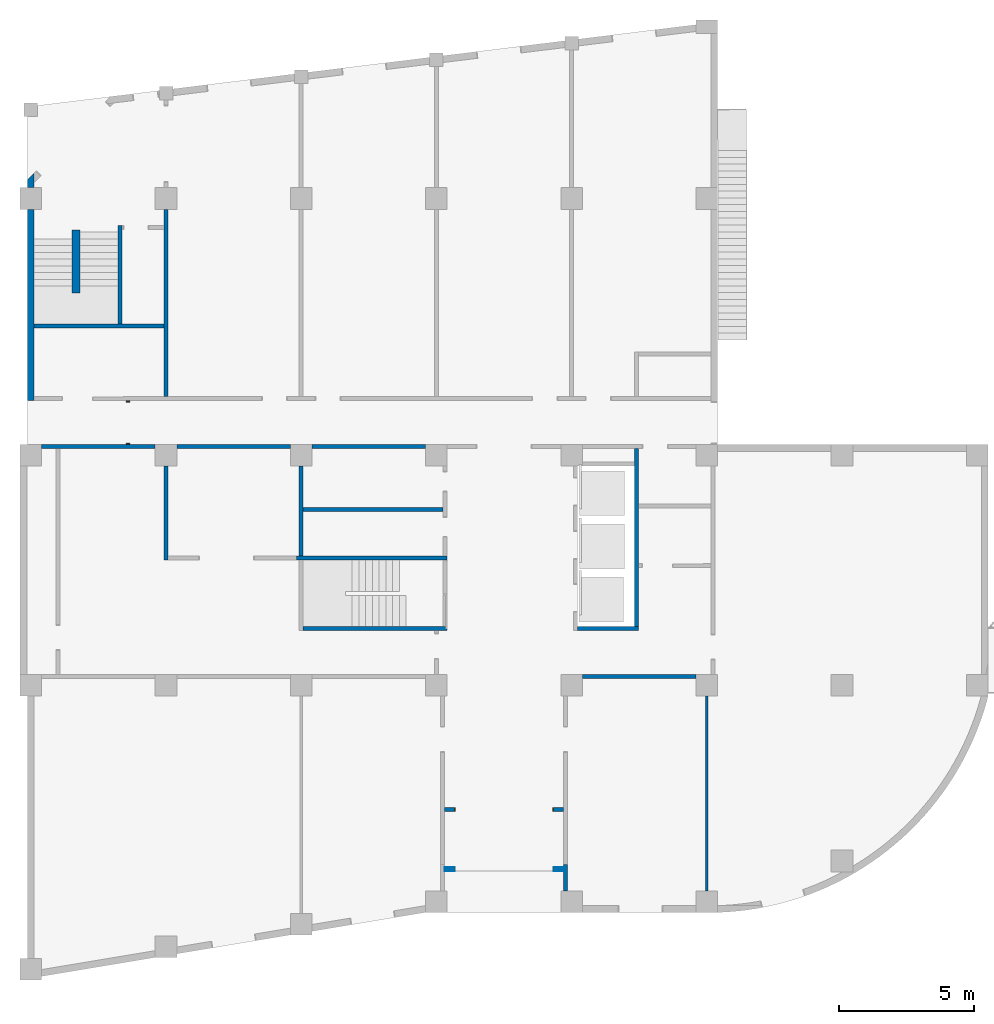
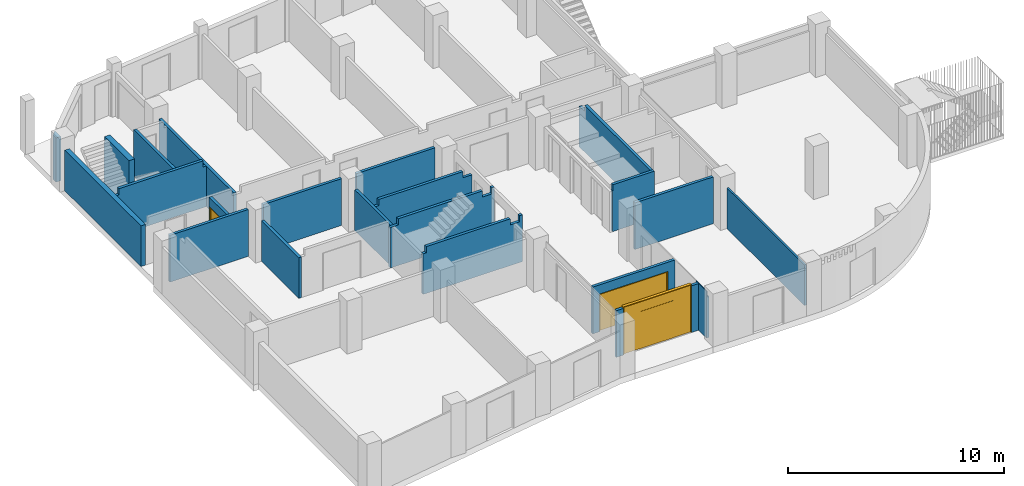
# One storey, part 6 of 9: 21 walls, 3 doors, 3 openings.
"""IFC2X3 building model written with IfcOpenShell, lengths in millimetres."""

from ifc_helpers import new_model, entity, si_unit, converted_unit, derived_unit, money_unit, direction, frame, origin_with_axes, place, context, subcontext, project, spatial, open_shell, faceted_brep, surface_model, material, type_object, element, fill, save


model = new_model("IFC2X3")

# Units and contexts
model_context = context("Model", 3, precision=0.01, world=origin_with_axes(), true_north=direction((0.0, 1.0)))
body_context = subcontext(model_context, "Body", "Model", "MODEL_VIEW")
ifc_project = project(units=[si_unit("LENGTHUNIT", "METRE", prefix="MILLI"), si_unit("AREAUNIT", "SQUARE_METRE"), si_unit("VOLUMEUNIT", "CUBIC_METRE"), converted_unit("PLANEANGLEUNIT", "DEGREE", entity("IfcPlaneAngleMeasure", 0.0174532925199), si_unit("PLANEANGLEUNIT", "RADIAN"), dimensions=[0, 0, 0, 0, 0, 0, 0]), si_unit("SOLIDANGLEUNIT", "STERADIAN"), money_unit("JPY"), converted_unit("TIMEUNIT", "Year", entity("IfcTimeMeasure", 31556926.0), si_unit("TIMEUNIT", "SECOND"), dimensions=[0, 0, 1, 0, 0, 0, 0]), si_unit("MASSUNIT", "GRAM", prefix="KILO"), si_unit("THERMODYNAMICTEMPERATUREUNIT", "DEGREE_CELSIUS"), si_unit("LUMINOUSINTENSITYUNIT", "LUMEN"), si_unit("ENERGYUNIT", "JOULE", prefix="MEGA"), derived_unit("THERMALCONDUCTANCEUNIT", [(si_unit("POWERUNIT", "WATT"), 1), (si_unit("LENGTHUNIT", "METRE"), -1), (si_unit("THERMODYNAMICTEMPERATUREUNIT", "KELVIN"), -1)]), derived_unit("SPECIFICHEATCAPACITYUNIT", [(si_unit("ENERGYUNIT", "JOULE"), 1), (si_unit("MASSUNIT", "GRAM", prefix="KILO"), -1), (si_unit("THERMODYNAMICTEMPERATUREUNIT", "KELVIN"), -1)]), derived_unit("MASSDENSITYUNIT", [(si_unit("MASSUNIT", "GRAM", prefix="KILO"), 1), (si_unit("VOLUMEUNIT", "CUBIC_METRE"), -1)])], contexts=[model_context])

# Site, building, storey
site_placement = place(None, origin_with_axes())
site = spatial("IfcSite", under=ifc_project, at=site_placement, Name="サイト", CompositionType="ELEMENT")
building_placement = place(site_placement, origin_with_axes())
building = spatial("IfcBuilding", under=site, at=building_placement, Name="建築", CompositionType="ELEMENT")
storey_placement = place(building_placement, origin_with_axes())
storey = spatial("IfcBuildingStorey", under=building, at=storey_placement, Name="1FL", CompositionType="ELEMENT", Elevation=0.0)

# Wall, opening, door
ifc_material_1 = material(Name="コンクリート")
wall_type_1 = type_object("IfcWallType", Name="コンクリート 150", PredefinedType="NOTDEFINED")
wall_1_placement = place(storey_placement, frame((19775.0000519, -4600.0, 0.0), z_axis=(0.0, 0.0, 1.0), x_axis=(-1.0, 0.0, 0.0)))
wall_1 = element("IfcWall", 1, at=wall_1_placement, inside=storey, type_object=wall_type_1, material=ifc_material_1, Name="W6", context=body_context, shape_type="Brep", body=[
    faceted_brep([(4105.0000522, -75.0, 2130.0), (4105.0000522, -75.0, 0.0), (4475.0001044, -75.0, 0.0), (4475.0001044, -75.0, 2650.0), (75.0, -75.0, 2650.0), (75.0, -75.0, 0.0), (445.0000522, -75.0, 0.0), (445.0000522, -75.0, 2130.0), (4105.0000522, 75.0, 2130.0), (4105.0000522, 75.0, 0.0), (4475.0001044, 75.0, 0.0), (4475.0001044, 75.0, 2650.0), (75.0, 75.0, 2650.0), (75.0, 75.0, 0.0), (445.0000522, 75.0, 0.0), (445.0000522, 75.0, 2130.0)], [[[0, 1, 2, 3, 4, 5, 6, 7]], [[1, 0, 8, 9]], [[1, 9, 10, 2]], [[10, 11, 3, 2]], [[11, 12, 4, 3]], [[5, 4, 12, 13]], [[14, 6, 5, 13]], [[7, 6, 14, 15]], [[0, 7, 15, 8]], [[15, 14, 13, 12, 11, 10, 9, 8]]]),
])
opening_1_placement = place(wall_1_placement, frame((2275.0000522, 0.0, 0.0), z_axis=(0.0, 0.0, 1.0), x_axis=(1.0, 0.0, 0.0)))
opening_1 = element("IfcOpeningElement", 2, at=opening_1_placement, cuts=wall_1, Name="SD2", context=body_context, shape_type="Brep", body=[
    faceted_brep([(-1830.0, -160.0, 0.0), (-1830.0, -160.0, 2130.0), (-1830.0, 160.0, 2130.0), (-1830.0, 160.0, 0.0), (1830.0, -160.0, 0.0), (1830.0, -160.0, 2130.0), (1830.0, 160.0, 2130.0), (1830.0, 160.0, 0.0)], [[[0, 1, 2, 3]], [[0, 4, 5, 1]], [[1, 5, 6, 2]], [[3, 2, 6, 7]], [[4, 0, 3, 7]], [[5, 4, 7, 6]]]),
])
door_style_1 = type_object("IfcDoorStyle", Name="両引き分戸2", ConstructionType="NOTDEFINED", OperationType="NOTDEFINED", ParameterTakesPrecedence=False, Sizeable=False)
door_1_placement = place(opening_1_placement, frame((1800.0, 0.0, 0.0), z_axis=(0.0, 0.0, 1.0), x_axis=(-1.0, 0.0, 0.0)))
door_1 = element("IfcDoor", 3, at=door_1_placement, inside=storey, type_object=door_style_1, Name="SD2", OverallHeight=2150.0, OverallWidth=3700.0, context=body_context, shape_type="SurfaceModel", body=[
    surface_model("IfcShellBasedSurfaceModel", [(2675.0, 0.0, 0.0), (2675.0, 0.0, 2100.0), (3600.0, 0.0, 2100.0), (3600.0, 0.0, 0.0), (2725.0, 0.0, 150.0), (3550.0, 0.0, 150.0), (3550.0, 0.0, 2050.0), (2725.0, 0.0, 2050.0)], [open_shell([[[0, 1, 2, 3], [4, 5, 6, 7]]])]),
    surface_model("IfcShellBasedSurfaceModel", [(2725.0, 0.0, 150.0), (2725.0, 0.0, 2050.0), (3550.0, 0.0, 2050.0), (3550.0, 0.0, 150.0)], [open_shell([[[0, 1, 2, 3]]])]),
    surface_model("IfcShellBasedSurfaceModel", [(2725.0, -10.5, 2100.0), (2725.0, -10.5, 1950.0), (1800.0, -10.5, 1950.0), (1800.0, -10.5, 2100.0)], [open_shell([[[0, 1, 2, 3]]])]),
    surface_model("IfcShellBasedSurfaceModel", [(2725.0, -10.5, 0.0), (1800.0, -10.5, 0.0), (1800.0, -10.5, 150.0), (2725.0, -10.5, 150.0)], [open_shell([[[0, 1, 2, 3]]])]),
    surface_model("IfcShellBasedSurfaceModel", [(2725.0, -10.5, 150.0), (1800.0, -10.5, 150.0), (1800.0, -10.5, 1950.0), (2725.0, -10.5, 1950.0)], [open_shell([[[0, 1, 2, 3]]])]),
    surface_model("IfcShellBasedSurfaceModel", [(875.0, -10.5, 2100.0), (1800.0, -10.5, 2100.0), (1800.0, -10.5, 1950.0), (875.0, -10.5, 1950.0)], [open_shell([[[0, 1, 2, 3]]])]),
    surface_model("IfcShellBasedSurfaceModel", [(875.0, -10.5, 0.0), (875.0, -10.5, 150.0), (1800.0, -10.5, 150.0), (1800.0, -10.5, 0.0)], [open_shell([[[0, 1, 2, 3]]])]),
    surface_model("IfcShellBasedSurfaceModel", [(875.0, -10.5, 150.0), (875.0, -10.5, 1950.0), (1800.0, -10.5, 1950.0), (1800.0, -10.5, 150.0)], [open_shell([[[0, 1, 2, 3]]])]),
    surface_model("IfcShellBasedSurfaceModel", [(0.0, 0.0, 0.0), (0.0, 0.0, 2100.0), (925.0, 0.0, 2100.0), (925.0, 0.0, 0.0), (50.0, 0.0, 150.0), (875.0, 0.0, 150.0), (875.0, 0.0, 2050.0), (50.0, 0.0, 2050.0)], [open_shell([[[0, 1, 2, 3], [4, 5, 6, 7]]])]),
    surface_model("IfcShellBasedSurfaceModel", [(50.0, 0.0, 150.0), (50.0, 0.0, 2050.0), (875.0, 0.0, 2050.0), (875.0, 0.0, 150.0)], [open_shell([[[0, 1, 2, 3]]])]),
    surface_model("IfcShellBasedSurfaceModel", [(3630.0, 75.0, 0.0), (3600.0, 75.0, 0.0), (3600.0, 75.0, 2100.0), (0.0, 75.0, 2100.0), (0.0, 75.0, 0.0), (-30.0, 75.0, 0.0), (-30.0, 75.0, 2130.0), (3630.0, 75.0, 2130.0)], [open_shell([[[0, 1, 2, 3, 4, 5, 6, 7]]])]),
    surface_model("IfcShellBasedSurfaceModel", [(3630.0, -75.0, 0.0), (3600.0, -75.0, 0.0), (3600.0, -75.0, 2100.0), (0.0, -75.0, 2100.0), (0.0, -75.0, 0.0), (-30.0, -75.0, 0.0), (-30.0, -75.0, 2130.0), (3630.0, -75.0, 2130.0)], [open_shell([[[0, 1, 2, 3, 4, 5, 6, 7]]])]),
    surface_model("IfcShellBasedSurfaceModel", [(3600.0, 75.0, 0.0), (3600.0, -75.0, 0.0), (3600.0, -75.0, 2100.0), (3600.0, 75.0, 2100.0), (3630.0, 75.0, 0.0), (3630.0, -75.0, 0.0), (0.0, -75.0, 2100.0), (0.0, 75.0, 2100.0), (3630.0, 75.0, 2130.0), (3630.0, -75.0, 2130.0), (0.0, -75.0, 0.0), (0.0, 75.0, 0.0), (-30.0, 75.0, 2130.0), (-30.0, -75.0, 2130.0), (-30.0, -75.0, 0.0), (-30.0, 75.0, 0.0)], [open_shell([[[0, 1, 2, 3]], [[4, 5, 1, 0]], [[3, 2, 6, 7]], [[8, 9, 5, 4]], [[7, 6, 10, 11]], [[12, 13, 9, 8]], [[11, 10, 14, 15]], [[15, 14, 13, 12]]])]),
])
fill(opening_1, door_1)

# Wall
wall_2_placement = place(storey_placement, frame((5000.0, 8825.000045, 0.0), z_axis=(0.0, 0.0, 1.0), x_axis=(0.0, -1.0, 0.0)))
element("IfcWall", 4, at=wall_2_placement, inside=storey, type_object=wall_type_1, material=ifc_material_1, Name="W9", context=body_context, shape_type="Brep", body=[
    faceted_brep([(4200.000045, 75.0, 0.0), (725.000044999, 75.0, 0.0), (725.000044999, 75.0, 2300.0), (4200.000045, 75.0, 2300.0), (4200.000045, -75.0, 0.0), (725.000044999, -75.0, 0.0), (725.000044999, -75.0, 2300.0), (4200.000045, -75.0, 2300.0)], [[[0, 1, 2, 3]], [[4, 5, 1, 0]], [[5, 6, 2, 1]], [[3, 2, 6, 7]], [[4, 0, 3, 7]], [[7, 6, 5, 4]]]),
])

# Wall, opening, door
wall_3_placement = place(storey_placement, frame((19775.0000519, -6800.0, 0.0), z_axis=(0.0, 0.0, 1.0), x_axis=(-1.0, 0.0, 0.0)))
wall_3 = element("IfcWall", 5, at=wall_3_placement, inside=storey, type_object=wall_type_1, material=ifc_material_1, Name="W6", context=body_context, shape_type="Brep", body=[
    faceted_brep([(4105.0000522, 75.0, 2650.0), (4105.0000522, -75.0, 2650.0), (4475.0001044, -75.0, 2650.0), (4475.0001044, 75.0, 2650.0), (4105.0000522, -75.0, 0.0), (4105.0000522, 75.0, 0.0), (4475.0001044, -75.0, 0.0), (4475.0001044, 75.0, 0.0)], [[[0, 1, 2, 3]], [[4, 1, 0, 5]], [[1, 4, 6, 2]], [[7, 3, 2, 6]], [[5, 0, 3, 7]], [[4, 5, 7, 6]]]),
    faceted_brep([(445.0000522, -75.0, 0.0), (445.0000522, -75.0, 2650.0), (75.0, -75.0, 2650.0), (75.0, -75.0, 0.0), (445.0000522, 75.0, 2650.0), (445.0000522, 75.0, 0.0), (75.0, 75.0, 2650.0), (75.0, 75.0, 0.0)], [[[0, 1, 2, 3]], [[4, 1, 0, 5]], [[1, 4, 6, 2]], [[3, 2, 6, 7]], [[5, 0, 3, 7]], [[4, 5, 7, 6]]]),
])
opening_2_placement = place(wall_3_placement, frame((2275.0000522, 0.0, 0.0), z_axis=(0.0, 0.0, 1.0), x_axis=(1.0, 0.0, 0.0)))
opening_2 = element("IfcOpeningElement", 6, at=opening_2_placement, cuts=wall_3, Name="SD1", context=body_context, shape_type="Brep", body=[
    faceted_brep([(-1830.0, -160.0, 0.0), (-1830.0, -160.0, 2730.0), (-1830.0, 160.0, 2730.0), (-1830.0, 160.0, 0.0), (1830.0, -160.0, 0.0), (1830.0, -160.0, 2730.0), (1830.0, 160.0, 2730.0), (1830.0, 160.0, 0.0)], [[[0, 1, 2, 3]], [[0, 4, 5, 1]], [[1, 5, 6, 2]], [[3, 2, 6, 7]], [[4, 0, 3, 7]], [[5, 4, 7, 6]]]),
])
door_2_placement = place(opening_2_placement, frame((1800.0, 0.0, 0.0), z_axis=(0.0, 0.0, 1.0), x_axis=(-1.0, 0.0, 0.0)))
door_2 = element("IfcDoor", 7, at=door_2_placement, inside=storey, type_object=door_style_1, Name="SD1", OverallHeight=2750.0, OverallWidth=3700.0, context=body_context, shape_type="SurfaceModel", body=[
    surface_model("IfcShellBasedSurfaceModel", [(2675.0, 0.0, 0.0), (2675.0, 0.0, 2100.0), (3600.0, 0.0, 2100.0), (3600.0, 0.0, 0.0), (2725.0, 0.0, 150.0), (3550.0, 0.0, 150.0), (3550.0, 0.0, 2050.0), (2725.0, 0.0, 2050.0)], [open_shell([[[0, 1, 2, 3], [4, 5, 6, 7]]])]),
    surface_model("IfcShellBasedSurfaceModel", [(2725.0, 0.0, 150.0), (2725.0, 0.0, 2050.0), (3550.0, 0.0, 2050.0), (3550.0, 0.0, 150.0)], [open_shell([[[0, 1, 2, 3]]])]),
    surface_model("IfcShellBasedSurfaceModel", [(2725.0, -10.5, 2100.0), (2725.0, -10.5, 1950.0), (1800.0, -10.5, 1950.0), (1800.0, -10.5, 2100.0)], [open_shell([[[0, 1, 2, 3]]])]),
    surface_model("IfcShellBasedSurfaceModel", [(2725.0, -10.5, 0.0), (1800.0, -10.5, 0.0), (1800.0, -10.5, 150.0), (2725.0, -10.5, 150.0)], [open_shell([[[0, 1, 2, 3]]])]),
    surface_model("IfcShellBasedSurfaceModel", [(2725.0, -10.5, 150.0), (1800.0, -10.5, 150.0), (1800.0, -10.5, 1950.0), (2725.0, -10.5, 1950.0)], [open_shell([[[0, 1, 2, 3]]])]),
    surface_model("IfcShellBasedSurfaceModel", [(875.0, -10.5, 2100.0), (1800.0, -10.5, 2100.0), (1800.0, -10.5, 1950.0), (875.0, -10.5, 1950.0)], [open_shell([[[0, 1, 2, 3]]])]),
    surface_model("IfcShellBasedSurfaceModel", [(875.0, -10.5, 0.0), (875.0, -10.5, 150.0), (1800.0, -10.5, 150.0), (1800.0, -10.5, 0.0)], [open_shell([[[0, 1, 2, 3]]])]),
    surface_model("IfcShellBasedSurfaceModel", [(875.0, -10.5, 150.0), (875.0, -10.5, 1950.0), (1800.0, -10.5, 1950.0), (1800.0, -10.5, 150.0)], [open_shell([[[0, 1, 2, 3]]])]),
    surface_model("IfcShellBasedSurfaceModel", [(0.0, 0.0, 0.0), (0.0, 0.0, 2100.0), (925.0, 0.0, 2100.0), (925.0, 0.0, 0.0), (50.0, 0.0, 150.0), (875.0, 0.0, 150.0), (875.0, 0.0, 2050.0), (50.0, 0.0, 2050.0)], [open_shell([[[0, 1, 2, 3], [4, 5, 6, 7]]])]),
    surface_model("IfcShellBasedSurfaceModel", [(50.0, 0.0, 150.0), (50.0, 0.0, 2050.0), (875.0, 0.0, 2050.0), (875.0, 0.0, 150.0)], [open_shell([[[0, 1, 2, 3]]])]),
    surface_model("IfcShellBasedSurfaceModel", [(3600.0, 0.0, 2200.0), (1825.0, 0.0, 2200.0), (1825.0, 0.0, 2700.0), (3600.0, 0.0, 2700.0)], [open_shell([[[0, 1, 2, 3]]])]),
    faceted_brep([(1775.0, 0.0499999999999, 2200.0), (1775.0, 0.0499999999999, 2700.0), (1825.0, 0.0499999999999, 2700.0), (1825.0, 0.0499999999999, 2200.0), (1775.0, -0.0499999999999, 2200.0), (1775.0, -0.0499999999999, 2700.0), (1825.0, -0.0499999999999, 2700.0), (1825.0, -0.0499999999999, 2200.0)], [[[0, 1, 2, 3]], [[0, 4, 5, 1]], [[1, 5, 6, 2]], [[2, 6, 7, 3]], [[3, 7, 4, 0]], [[7, 6, 5, 4]]]),
    surface_model("IfcShellBasedSurfaceModel", [(1775.0, 0.0, 2200.0), (0.0, 0.0, 2200.0), (0.0, 0.0, 2700.0), (1775.0, 0.0, 2700.0)], [open_shell([[[0, 1, 2, 3]]])]),
    surface_model("IfcShellBasedSurfaceModel", [(3600.0, 0.0, 2100.0), (0.0, 0.0, 2100.0), (0.0, 0.0, 2200.0), (3600.0, 0.0, 2200.0)], [open_shell([[[0, 1, 2, 3]]])]),
    surface_model("IfcShellBasedSurfaceModel", [(3630.0, 75.0, 0.0), (3600.0, 75.0, 0.0), (3600.0, 75.0, 2700.0), (0.0, 75.0, 2700.0), (0.0, 75.0, 0.0), (-30.0, 75.0, 0.0), (-30.0, 75.0, 2730.0), (3630.0, 75.0, 2730.0)], [open_shell([[[0, 1, 2, 3, 4, 5, 6, 7]]])]),
    surface_model("IfcShellBasedSurfaceModel", [(3630.0, -75.0, 0.0), (3600.0, -75.0, 0.0), (3600.0, -75.0, 2700.0), (0.0, -75.0, 2700.0), (0.0, -75.0, 0.0), (-30.0, -75.0, 0.0), (-30.0, -75.0, 2730.0), (3630.0, -75.0, 2730.0)], [open_shell([[[0, 1, 2, 3, 4, 5, 6, 7]]])]),
    surface_model("IfcShellBasedSurfaceModel", [(3600.0, 75.0, 0.0), (3600.0, -75.0, 0.0), (3600.0, -75.0, 2700.0), (3600.0, 75.0, 2700.0), (3630.0, 75.0, 0.0), (3630.0, -75.0, 0.0), (0.0, -75.0, 2700.0), (0.0, 75.0, 2700.0), (3630.0, 75.0, 2730.0), (3630.0, -75.0, 2730.0), (0.0, -75.0, 0.0), (0.0, 75.0, 0.0), (-30.0, 75.0, 2730.0), (-30.0, -75.0, 2730.0), (-30.0, -75.0, 0.0), (-30.0, 75.0, 0.0)], [open_shell([[[0, 1, 2, 3]], [[4, 5, 1, 0]], [[3, 2, 6, 7]], [[8, 9, 5, 4]], [[7, 6, 10, 11]], [[12, 13, 9, 8]], [[11, 10, 14, 15]], [[15, 14, 13, 12]]])]),
])
fill(opening_2, door_2)

# Walls
wall_4_placement = place(storey_placement, frame((19775.0000519, 325.000021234, 0.0), z_axis=(0.0, 0.0, 1.0), x_axis=(1.0, 0.0, 0.0)))
element("IfcWall", 8, at=wall_4_placement, inside=storey, type_object=wall_type_1, material=ifc_material_1, Name="W5", context=body_context, shape_type="Brep", body=[
    faceted_brep([(4824.99994809, 74.9999787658, 0.0), (624.999948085, 74.9999787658, 0.0), (624.999948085, 74.9999787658, 2650.0), (4824.99994809, 74.9999787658, 2650.0), (4824.99994809, -75.0, 0.0), (624.999948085, -75.0, 0.0), (624.999948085, -75.0000212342, 2650.0), (4824.99994809, -75.0000212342, 2650.0)], [[[0, 1, 2, 3]], [[4, 5, 1, 0]], [[5, 6, 2, 1]], [[3, 2, 6, 7]], [[4, 0, 3, 7]], [[7, 6, 5, 4]]]),
])
for number, where, z_axis, x_axis, name in (
    (9, (15000.0, 8825.000045, 0.0), (0.0, 0.0, 1.0), (-1.0, 0.0, 0.0), "W8"),
    (10, (10000.0, 8825.000045, 0.0), (0.0, 0.0, 1.0), (-1.0, 0.0, 0.0), "W9"),
    (11, (5000.0, 8825.000045, 0.0), (0.0, 0.0, 1.0), (-1.0, 0.0, 0.0), "W0"),
):
    element("IfcWall", number, at=place(storey_placement, frame(where, z_axis=z_axis, x_axis=x_axis)), inside=storey, type_object=wall_type_1, material=ifc_material_1, Name=name, context=body_context, shape_type="Brep", body=[
        faceted_brep([(4600.0, 75.0, 2650.0), (400.0, 75.0, 2650.0), (400.0, -74.999955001, 2650.0), (4600.0, -74.999955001, 2650.0), (4600.0, 75.0, 0.0), (400.0, 75.0, 0.0), (400.0, -74.999955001, 0.0), (4600.0, -74.999955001, 0.0)], [[[0, 1, 2, 3]], [[4, 5, 1, 0]], [[5, 6, 2, 1]], [[3, 2, 6, 7]], [[4, 0, 3, 7]], [[7, 6, 5, 4]]]),
    ])
wall_5_placement = place(storey_placement, frame((5000.0, 18000.0, 0.0), z_axis=(0.0, 0.0, 1.0), x_axis=(0.0, -1.0, 0.0)))
element("IfcWall", 12, at=wall_5_placement, inside=storey, type_object=wall_type_1, material=ifc_material_1, Name="W2", context=body_context, shape_type="Brep", body=[
    faceted_brep([(7325.0, 75.0, 0.0), (400.0, 75.0, 0.0), (400.0, 75.0, 2300.0), (7325.0, 75.0, 2300.0), (7325.0, -75.0, 0.0), (400.0, -75.0, 0.0), (400.0, -75.0, 2300.0), (7325.0, -75.0, 2300.0)], [[[0, 1, 2, 3]], [[4, 5, 1, 0]], [[5, 6, 2, 1]], [[3, 2, 6, 7]], [[4, 0, 3, 7]], [[7, 6, 5, 4]]]),
])
wall_6_placement = place(storey_placement, frame((20150.0, 2100.0, 0.0), z_axis=(0.0, 0.0, 1.0), x_axis=(1.0, 0.0, 0.0)))
element("IfcWall", 13, at=wall_6_placement, inside=storey, type_object=wall_type_1, material=ifc_material_1, Name="W7", context=body_context, shape_type="Brep", body=[
    faceted_brep([(75.0, 75.0, 0.0), (74.9999786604, 74.9999977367, 2300.0), (100.0, 74.9999973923, 2300.0), (100.0, 74.9999974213, 2650.0), (2325.0, 75.0, 2650.0), (2325.0, 75.0, 0.0), (75.0, -75.0, 0.0), (75.0, -75.0, 2300.0), (100.0, -75.0, 2300.0), (100.0, -75.0, 2650.0), (2325.0, -75.0, 2650.0), (2325.0, -75.0, 0.0)], [[[0, 1, 2, 3, 4, 5]], [[6, 7, 1, 0]], [[8, 2, 1, 7]], [[8, 9, 3, 2]], [[4, 3, 9, 10]], [[11, 5, 4, 10]], [[6, 0, 5, 11]], [[9, 8, 7, 6, 11, 10]]]),
])
wall_7_placement = place(storey_placement, frame((22400.0, 2100.0, 0.0), z_axis=(0.0, 0.0, 1.0), x_axis=(0.0, 1.0, 0.0)))
element("IfcWall", 14, at=wall_7_placement, inside=storey, type_object=wall_type_1, material=ifc_material_1, Name="W8", context=body_context, shape_type="Brep", body=[
    faceted_brep([(6650.000045, 75.0, 0.0), (6650.0, 75.0, 2300.0), (6650.0, -75.0, 2300.0), (6650.000045, -75.0, 0.0), (6150.0, 75.0, 2650.0), (6150.0, 75.0, 2300.0), (75.0, 75.0, 0.0), (75.0, 75.0, 2650.0), (6150.0, -75.0, 2300.0), (6150.0, -75.0, 2650.0), (75.0, -75.0, 2650.0), (75.0, -75.0, 0.0)], [[[0, 1, 2, 3]], [[4, 5, 1, 0, 6, 7]], [[5, 8, 2, 1]], [[2, 8, 9, 10, 11, 3]], [[11, 6, 0, 3]], [[5, 4, 9, 8]], [[6, 11, 10, 7]], [[10, 9, 4, 7]]]),
])
wall_8_placement = place(storey_placement, frame((10000.0, 4700.0, 0.0), z_axis=(0.0, 0.0, 1.0), x_axis=(0.0, 1.0, 0.0)))
element("IfcWall", 15, at=wall_8_placement, inside=storey, type_object=wall_type_1, material=ifc_material_1, Name="W1", context=body_context, shape_type="Brep", body=[
    faceted_brep([(75.0, -75.0, 0.0), (3400.0, -75.0, 0.0), (3400.0, -75.0, 2300.0), (75.0, -75.0, 2300.0), (75.0, 75.0, 0.0), (3400.0, 75.0, 0.0), (3400.0, 75.0, 2300.0), (75.0, 75.0, 2300.0)], [[[0, 1, 2, 3]], [[4, 5, 1, 0]], [[5, 6, 2, 1]], [[3, 2, 6, 7]], [[4, 0, 3, 7]], [[7, 6, 5, 4]]]),
])
wall_9_placement = place(storey_placement, frame((10000.0, 2100.0, 0.0), z_axis=(0.0, 0.0, 1.0), x_axis=(1.0, 0.0, 0.0)))
element("IfcWall", 16, at=wall_9_placement, inside=storey, type_object=wall_type_1, material=ifc_material_1, Name="W3", context=body_context, shape_type="Brep", body=[
    faceted_brep([(75.0, 75.0, 0.0), (75.0, 75.0, 2300.0), (250.0, 75.0, 2300.0), (250.0, 75.0, 2650.0), (3631.20524398, 75.0, 2650.0), (4750.0, 75.0, 2650.0), (4750.0, 75.0, 2300.0), (5250.0, 75.0, 2300.0), (5250.0, 75.0, 2650.0), (5399.99999555, 75.0, 2650.0), (5399.99999555, 75.0, 0.0), (75.0, -75.0, 0.0), (75.0, -75.0, 2300.0), (250.0, -75.0, 2300.0), (250.0, -75.0, 2650.0), (4750.0, -75.0, 2650.0), (4750.0, -75.0, 2300.0), (5250.0, -75.0, 2300.0), (5250.0, -75.0, 2650.0), (5399.99999555, -75.0, 2650.0), (5399.99999555, -75.0, 0.0)], [[[0, 1, 2, 3, 4, 5, 6, 7, 8, 9, 10]], [[11, 12, 1, 0]], [[13, 2, 1, 12]], [[13, 14, 3, 2]], [[4, 3, 14, 15, 5]], [[16, 6, 5, 15]], [[17, 7, 6, 16]], [[17, 18, 8, 7]], [[9, 8, 18, 19]], [[20, 10, 9, 19]], [[11, 0, 10, 20]], [[14, 13, 12, 11, 20, 19, 18, 17, 16, 15]]]),
])
wall_10_placement = place(storey_placement, frame((10000.0, 4700.0, 0.0), z_axis=(0.0, 0.0, 1.0), x_axis=(1.0, 0.0, 0.0)))
element("IfcWall", 17, at=wall_10_placement, inside=storey, type_object=wall_type_1, material=ifc_material_1, Name="W4", context=body_context, shape_type="Brep", body=[
    faceted_brep([(-175.0, 75.0, 0.0), (-175.0, 75.0, 2300.0), (250.0, 75.0, 2300.0), (250.0, 75.0, 2650.0), (4750.0, 75.0, 2650.0), (4750.0, 75.0, 2300.0), (5250.0, 75.0, 2300.0), (5250.0, 75.0, 2650.0), (5399.99999555, 75.0, 2650.0), (5399.99999555, 75.0, 0.0), (-175.0, -75.0, 0.0), (-175.0, -75.0, 2300.0), (250.0, -75.0, 2300.0), (250.0, -75.0, 2650.0), (3381.20524398, -75.0, 2650.0), (4750.0, -75.0, 2650.0), (4750.0, -75.0, 2300.0), (5250.0, -75.0, 2300.0), (5250.0, -75.0, 2650.0), (5399.99999555, -75.0, 2650.0), (5399.99999555, -75.0, 0.0)], [[[0, 1, 2, 3, 4, 5, 6, 7, 8, 9]], [[10, 11, 1, 0]], [[12, 2, 1, 11]], [[12, 13, 3, 2]], [[4, 3, 13, 14, 15]], [[16, 5, 4, 15]], [[17, 6, 5, 16]], [[17, 18, 7, 6]], [[8, 7, 18, 19]], [[20, 9, 8, 19]], [[0, 9, 20, 10]], [[13, 12, 11, 10, 20, 19, 18, 17, 16, 15, 14]]]),
])
wall_11_placement = place(storey_placement, frame((10000.0, 6500.0, 0.0), z_axis=(0.0, 0.0, 1.0), x_axis=(1.0, 0.0, 0.0)))
element("IfcWall", 18, at=wall_11_placement, inside=storey, type_object=wall_type_1, material=ifc_material_1, Name="W5", context=body_context, shape_type="Brep", body=[
    faceted_brep([(75.0, 75.0, 0.0), (75.0, 75.0, 2300.0), (250.0, 75.0, 2300.0), (250.0, 75.0, 2650.0), (4750.0, 75.0, 2650.0), (4750.0, 75.0, 2300.0), (5250.0, 75.0, 2300.0), (5249.99999555, 75.0, 0.0), (75.0, -75.0, 0.0), (75.0, -75.0, 2300.0), (250.0, -75.0, 2300.0), (250.0, -75.0, 2650.0), (4750.0, -75.0, 2650.0), (4750.0, -75.0, 2300.0), (5250.0, -75.0, 2300.0), (5249.99999555, -75.0, 0.0)], [[[0, 1, 2, 3, 4, 5, 6, 7]], [[8, 9, 1, 0]], [[10, 2, 1, 9]], [[10, 11, 3, 2]], [[4, 3, 11, 12]], [[13, 5, 4, 12]], [[13, 14, 6, 5]], [[7, 6, 14, 15]], [[8, 0, 7, 15]], [[11, 10, 9, 8, 15, 14, 13, 12]]]),
])
wall_12_placement = place(storey_placement, frame((19775.0000519, -6800.0, 0.0), z_axis=(0.0, 0.0, 1.0), x_axis=(0.0, -1.0, 0.0)))
element("IfcWall", 19, at=wall_12_placement, inside=storey, type_object=wall_type_1, material=ifc_material_1, Name="W5", context=body_context, shape_type="Brep", body=[
    faceted_brep([(-175.0, -25.0000519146, 2300.0), (800.0, -25.0000519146, 2300.0), (800.0, 74.9999834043, 2300.0), (-175.0, 75.0, 2300.0), (-175.0, -25.0000519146, 2650.0), (800.0, -25.0000519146, 2650.0), (800.0, -75.0, 0.0), (800.0, 75.0, 0.0), (800.0, -75.0000110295, 2650.0), (-175.0, 75.0, 0.0), (-175.0, -75.0, 0.0), (-175.0, -75.0, 2650.0), (75.0, -75.0, 2650.0)], [[[0, 1, 2, 3]], [[4, 5, 1, 0]], [[6, 7, 2, 1, 5, 8]], [[3, 2, 7, 9]], [[10, 11, 4, 0, 3, 9]], [[12, 8, 5, 4, 11]], [[9, 7, 6, 10]], [[10, 6, 8, 12, 11]]]),
])
wall_13_placement = place(storey_placement, frame((3300.0, 13282.5237799, 0.0), z_axis=(0.0, 0.0, 1.0), x_axis=(0.0, 1.0, 0.0)))
element("IfcWall", 20, at=wall_13_placement, inside=storey, type_object=wall_type_1, material=ifc_material_1, Name="W9", context=body_context, shape_type="Brep", body=[
    faceted_brep([(3717.47626515, 75.0, 0.0), (3717.47626515, 75.0, 2650.0), (3717.47626515, -75.0, 2650.0), (3717.47626515, -75.0, 0.0), (75.0, 75.0, 2650.0), (3475.0, 75.0, 2650.0), (75.0, 75.0, 0.0), (75.0, -75.0, 2650.0), (75.0, -75.0, 0.0)], [[[0, 1, 2, 3]], [[4, 5, 1, 0, 6]], [[7, 2, 1, 5, 4]], [[3, 2, 7, 8]], [[6, 0, 3, 8]], [[8, 7, 4, 6]]]),
])
wall_14_placement = place(storey_placement, frame((5000.0, 13282.5237799, 0.0), z_axis=(0.0, 0.0, 1.0), x_axis=(-1.0, 0.0, 0.0)))
element("IfcWall", 21, at=wall_14_placement, inside=storey, type_object=wall_type_1, material=ifc_material_1, Name="W9", context=body_context, shape_type="Brep", body=[
    faceted_brep([(4875.0, -75.0, 0.0), (4875.0, -75.0, 2300.0), (4750.0, -75.0, 2300.0), (4750.0, -75.0, 2650.0), (1775.0, -75.0, 2650.0), (250.0, -75.0, 2650.0), (250.0, -75.0, 2300.0), (75.0, -75.0, 2300.0), (75.0, -75.0, 0.0), (4875.0, 75.0, 0.0), (4875.0, 75.0, 2300.0), (4750.0, 75.0, 2300.0), (4750.0, 75.0, 2650.0), (250.0, 75.0, 2650.0), (250.0, 75.0, 2300.0), (75.0, 75.0, 2300.0), (75.0, 75.0, 0.0)], [[[0, 1, 2, 3, 4, 5, 6, 7, 8]], [[9, 10, 1, 0]], [[11, 2, 1, 10]], [[11, 12, 3, 2]], [[4, 3, 12, 13, 5]], [[14, 6, 5, 13]], [[14, 15, 7, 6]], [[8, 7, 15, 16]], [[8, 16, 9, 0]], [[12, 11, 10, 9, 16, 15, 14, 13]]]),
])

# Wall, opening, door
wall_15_placement = place(storey_placement, frame((3600.0, 8825.000045, 0.0), z_axis=(0.0, 0.0, 1.0), x_axis=(0.0, 1.0, 0.0)))
wall_15 = element("IfcWall", 22, at=wall_15_placement, inside=storey, type_object=wall_type_1, material=ifc_material_1, Name="W9", context=body_context, shape_type="Brep", body=[
    faceted_brep([(107.499977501, -75.0, 0.0), (107.499977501, -75.0, 2130.0), (1667.4999775, -75.0, 2130.0), (1667.4999775, -75.0, 0.0), (1699.999955, -75.0, 0.0), (1699.999955, -75.0, 2650.0), (75.0, -75.0, 2650.0), (75.0, -75.0, 0.0), (107.499977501, 75.0, 0.0), (107.499977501, 75.0, 2130.0), (1667.4999775, 75.0, 2130.0), (1667.4999775, 75.0, 0.0), (1699.999955, 75.0, 0.0), (1699.999955, 75.0, 2650.0), (75.0, 75.0, 2650.0), (75.0, 75.0, 0.0)], [[[0, 1, 2, 3, 4, 5, 6, 7]], [[1, 0, 8, 9]], [[2, 1, 9, 10]], [[3, 2, 10, 11]], [[3, 11, 12, 4]], [[13, 5, 4, 12]], [[6, 5, 13, 14]], [[6, 14, 15, 7]], [[8, 0, 7, 15]], [[9, 8, 15, 14, 13, 12, 11, 10]]]),
])
opening_3_placement = place(wall_15_placement, frame((887.499977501, 0.0, 0.0), z_axis=(0.0, 0.0, 1.0), x_axis=(1.0, 0.0, 0.0)))
opening_3 = element("IfcOpeningElement", 23, at=opening_3_placement, cuts=wall_15, Name="SD5", context=body_context, shape_type="Brep", body=[
    faceted_brep([(-780.0, -160.0, 0.0), (-780.0, -160.0, 2130.0), (-780.0, 160.0, 2130.0), (-780.0, 160.0, 0.0), (780.0, -160.0, 0.0), (780.0, -160.0, 2130.0), (780.0, 160.0, 2130.0), (780.0, 160.0, 0.0)], [[[0, 1, 2, 3]], [[0, 4, 5, 1]], [[1, 5, 6, 2]], [[3, 2, 6, 7]], [[4, 0, 3, 7]], [[5, 4, 7, 6]]]),
])
door_style_2 = type_object("IfcDoorStyle", Name="自由開き戸", ConstructionType="NOTDEFINED", OperationType="NOTDEFINED", ParameterTakesPrecedence=False, Sizeable=False)
door_3_placement = place(opening_3_placement, frame((-750.0, 0.0, 0.0), z_axis=(0.0, 0.0, 1.0), x_axis=(1.0, 0.0, 0.0)))
door_3 = element("IfcDoor", 24, at=door_3_placement, inside=storey, type_object=door_style_2, Name="SD5", OverallHeight=2150.0, OverallWidth=1600.0, context=body_context, shape_type="SurfaceModel", body=[
    surface_model("IfcShellBasedSurfaceModel", [(750.0, 0.0, 0.0), (750.0, 0.0, 2100.0), (1500.0, 0.0, 2100.0), (1500.0, 0.0, 0.0)], [open_shell([[[0, 1, 2, 3]]])]),
    surface_model("IfcShellBasedSurfaceModel", [(750.0, 0.0, 0.0), (0.0, 0.0, 0.0), (0.0, 0.0, 2100.0), (750.0, 0.0, 2100.0)], [open_shell([[[0, 1, 2, 3]]])]),
    surface_model("IfcShellBasedSurfaceModel", [(-30.0, 75.0, 0.0), (-30.0, 75.0, 2130.0), (1530.0, 75.0, 2130.0), (1530.0, 75.0, 0.0), (1500.0, 75.0, 0.0), (1500.0, 75.0, 2100.0), (0.0, 75.0, 2100.0), (0.0, 75.0, 0.0)], [open_shell([[[0, 1, 2, 3, 4, 5, 6, 7]]])]),
    surface_model("IfcShellBasedSurfaceModel", [(-30.0, -75.0, 0.0), (-30.0, -75.0, 2130.0), (1530.0, -75.0, 2130.0), (1530.0, -75.0, 0.0), (1500.0, -75.0, 0.0), (1500.0, -75.0, 2100.0), (0.0, -75.0, 2100.0), (0.0, -75.0, 0.0)], [open_shell([[[0, 1, 2, 3, 4, 5, 6, 7]]])]),
    surface_model("IfcShellBasedSurfaceModel", [(0.0, 75.0, 0.0), (0.0, 75.0, 2100.0), (0.0, -75.0, 2100.0), (0.0, -75.0, 0.0), (1500.0, 75.0, 2100.0), (1500.0, -75.0, 2100.0), (-30.0, 75.0, 0.0), (-30.0, -75.0, 0.0), (1500.0, 75.0, 0.0), (1500.0, -75.0, 0.0), (-30.0, 75.0, 2130.0), (-30.0, -75.0, 2130.0), (1530.0, 75.0, 0.0), (1530.0, -75.0, 0.0), (1530.0, 75.0, 2130.0), (1530.0, -75.0, 2130.0)], [open_shell([[[0, 1, 2, 3]], [[1, 4, 5, 2]], [[6, 0, 3, 7]], [[4, 8, 9, 5]], [[10, 6, 7, 11]], [[8, 12, 13, 9]], [[14, 10, 11, 15]], [[12, 14, 15, 13]]])]),
])
fill(opening_3, door_3)

# Walls
wall_type_2 = type_object("IfcWallType", Name="コンクリート 250", PredefinedType="NOTDEFINED")
wall_16_placement = place(storey_placement, frame((0.0, 18638.3060976, 0.0), z_axis=(0.0, 0.0, 1.0), x_axis=(0.0, -1.0, 0.0)))
element("IfcWall", 25, at=wall_16_placement, inside=storey, type_object=wall_type_2, material=ifc_material_1, Name="W0", context=body_context, shape_type="Brep", body=[
    faceted_brep([(8113.30609761, 125.0, 0.0), (1038.30609761, 125.0, 0.0), (1038.30609761, 125.0, 2300.0), (8113.30609761, 125.0, 2300.0), (8113.30609761, -125.0, 0.0), (1038.30609761, -125.0, 0.0), (1038.30609761, -125.0, 2300.0), (8113.30609761, -125.0, 2300.0)], [[[0, 1, 2, 3]], [[4, 5, 1, 0]], [[5, 6, 2, 1]], [[3, 2, 6, 7]], [[4, 0, 3, 7]], [[7, 6, 5, 4]]]),
    faceted_brep([(-51.7766952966, -125.0, 2500.0), (238.306097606, -125.0, 2500.0), (238.306097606, 125.0, 2500.0), (-301.776695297, 125.0, 2500.0), (-51.7766952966, -125.0, 0.0), (238.306097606, -125.0, 0.0), (238.306097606, 125.0, 0.0), (-301.776695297, 125.0, 0.0)], [[[0, 1, 2, 3]], [[4, 5, 1, 0]], [[5, 6, 2, 1]], [[3, 2, 6, 7]], [[7, 4, 0, 3]], [[7, 6, 5, 4]]]),
])
wall_type_3 = type_object("IfcWallType", Name="コンクリート 300", PredefinedType="NOTDEFINED")
wall_17_placement = place(storey_placement, frame((1675.0, 16832.5237799, 0.0), z_axis=(0.0, 0.0, 1.0), x_axis=(0.0, -1.0, 0.0)))
element("IfcWall", 26, at=wall_17_placement, inside=storey, type_object=wall_type_3, material=ifc_material_1, Name="W9", context=body_context, shape_type="Brep", body=[
    faceted_brep([(0.0, -150.0, 0.0), (0.0, -150.0, 2650.0), (0.0, 150.0, 2650.0), (0.0, 150.0, 0.0), (75.0, -150.0, 3000.0), (75.0, -150.0, 2650.0), (2325.0, -150.0, 0.0), (2325.0, -150.0, 3000.0), (75.0, 150.0, 2650.0), (75.0, 150.0, 3000.0), (2325.0, 150.0, 3000.0), (2325.0, 150.0, 0.0)], [[[0, 1, 2, 3]], [[4, 5, 1, 0, 6, 7]], [[5, 8, 2, 1]], [[2, 8, 9, 10, 11, 3]], [[0, 3, 11, 6]], [[5, 4, 9, 8]], [[7, 6, 11, 10]], [[10, 9, 4, 7]]]),
])
ifc_material_2 = material(Name="石膏ボード")
wall_type_4 = type_object("IfcWallType", Name="石膏ボード 100", PredefinedType="NOTDEFINED")
wall_18_placement = place(storey_placement, frame((25000.0, 325.000021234, 0.0), z_axis=(0.0, 0.0, 1.0), x_axis=(0.0, -1.0, 0.0)))
element("IfcWall", 27, at=wall_18_placement, inside=storey, type_object=wall_type_4, material=ifc_material_2, Name="W15", context=body_context, shape_type="Brep", body=[
    faceted_brep([(7925.00002123, 50.0, 0.0), (725.000021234, 50.0, 0.0), (725.000021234, 50.0, 2300.0), (7925.00002123, 50.0, 2300.0), (7925.00002123, -50.0, 0.0), (725.000021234, -50.0, 0.0), (725.000021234, -50.0, 2300.0), (7925.00002123, -50.0, 2300.0)], [[[0, 1, 2, 3]], [[4, 5, 1, 0]], [[5, 6, 2, 1]], [[3, 2, 6, 7]], [[4, 0, 3, 7]], [[7, 6, 5, 4]]]),
])

save(model, "model.ifc")
